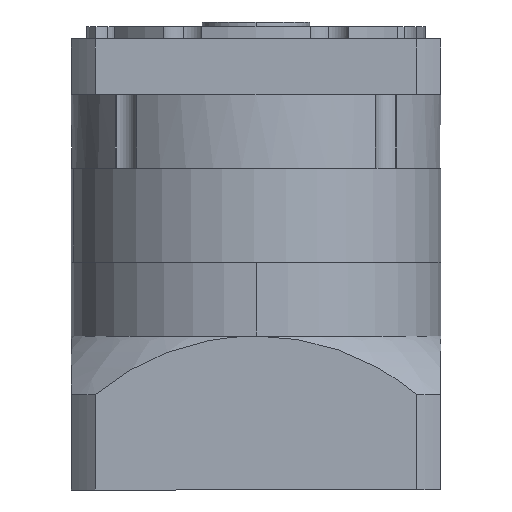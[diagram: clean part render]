
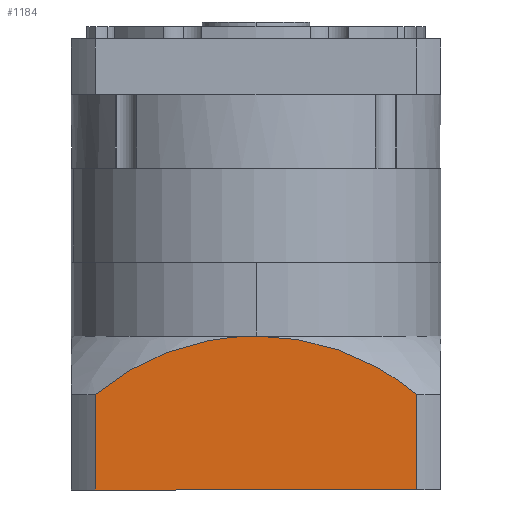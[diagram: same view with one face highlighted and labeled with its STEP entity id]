
A CAD part, left-side view. The second image highlights one B-rep face of the part: STEP entity #1184.
In plain terms, the highlighted planar face has unit normal (-1, 0, 0) as drawn and (0, 1, 0) by its records, which use the part's own axes.
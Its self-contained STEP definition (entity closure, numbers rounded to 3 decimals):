
#1184 = ADVANCED_FACE ( 'NONE', ( #15052 ), #28808, .T. ) ;
#2090 = EDGE_CURVE ( 'NONE', #21302, #34622, #9427, .T. ) ;
#2966 = CARTESIAN_POINT ( 'NONE',  ( 28.852, 60., -8.288 ) ) ;
#3414 = CARTESIAN_POINT ( 'NONE',  ( -16.416, 60., -4.641 ) ) ;
#3484 = DIRECTION ( 'NONE',  ( -1., 0., 0. ) ) ;
#3535 = CARTESIAN_POINT ( 'NONE',  ( -60., 60., -53. ) ) ;
#5789 = AXIS2_PLACEMENT_3D ( 'NONE', #29062, #29104, #29200 ) ;
#6475 = CARTESIAN_POINT ( 'NONE',  ( 18.757, 60., -5.055 ) ) ;
#6759 = VECTOR ( 'NONE', #29615, 1000. ) ;
#6905 = CARTESIAN_POINT ( 'NONE',  ( -22.137, 60., -6.065 ) ) ;
#8317 = VECTOR ( 'NONE', #3484, 1000. ) ;
#9427 = LINE ( 'NONE', #3535, #8317 ) ;
#9887 = CARTESIAN_POINT ( 'NONE',  ( 52.156, 60., -22. ) ) ;
#10033 = CARTESIAN_POINT ( 'NONE',  ( 9.481, 60., -3.52 ) ) ;
#10475 = CARTESIAN_POINT ( 'NONE',  ( -25.537, 60., -7.109 ) ) ;
#11881 = ORIENTED_EDGE ( 'NONE', *, *, #19020, .F. ) ;
#11966 = ORIENTED_EDGE ( 'NONE', *, *, #2090, .T. ) ;
#12007 = ORIENTED_EDGE ( 'NONE', *, *, #30482, .T. ) ;
#12566 = CARTESIAN_POINT ( 'NONE',  ( -52.156, 60., -22. ) ) ;
#12823 = ORIENTED_EDGE ( 'NONE', *, *, #42599, .F. ) ;
#12864 = ORIENTED_EDGE ( 'NONE', *, *, #18723, .F. ) ;
#13610 = CARTESIAN_POINT ( 'NONE',  ( 4.756, 60., -3.131 ) ) ;
#13912 = CARTESIAN_POINT ( 'NONE',  ( -4.77, 60., -3. ) ) ;
#14070 = CARTESIAN_POINT ( 'NONE',  ( -32.258, 60., -9.53 ) ) ;
#15052 = FACE_OUTER_BOUND ( 'NONE', #36100, .T. ) ;
#17049 = CARTESIAN_POINT ( 'NONE',  ( 38.546, 60., -12.698 ) ) ;
#17205 = CARTESIAN_POINT ( 'NONE',  ( 1.19, 60., -3. ) ) ;
#17437 = CARTESIAN_POINT ( 'NONE',  ( 0., 60., -3. ) ) ;
#17639 = CARTESIAN_POINT ( 'NONE',  ( -44.646, 60., -16.225 ) ) ;
#18723 = EDGE_CURVE ( 'NONE', #31137, #37617, #29332, .T. ) ;
#19002 = DIRECTION ( 'NONE',  ( 0., 0., -1. ) ) ;
#19020 = EDGE_CURVE ( 'NONE', #37617, #34622, #23785, .T. ) ;
#20574 = CARTESIAN_POINT ( 'NONE',  ( 33.242, 60., -10.107 ) ) ;
#21171 = CARTESIAN_POINT ( 'NONE',  ( -52.156, 60., -22. ) ) ;
#21302 = VERTEX_POINT ( 'NONE', #27031 ) ;
#22633 = B_SPLINE_CURVE_WITH_KNOTS ( 'NONE', 3,
 ( #9887, #23973, #38186, #17049, #41702, #20574, #45136, #24113, #2966, #27638, #6475, #31163, #10033, #34748, #13610, #38340, #17205, #41846 ),
 .UNSPECIFIED., .F., .F.,
 ( 4, 2, 2, 2, 2, 2, 2, 2, 4 ),
 ( 0., 0.014, 0.021, 0.025, 0.028, 0.042, 0.049, 0.053, 0.056 ),
 .UNSPECIFIED. ) ;
#23785 = LINE ( 'NONE', #26210, #41444 ) ;
#23973 = CARTESIAN_POINT ( 'NONE',  ( 48.515, 60., -18.934 ) ) ;
#24113 = CARTESIAN_POINT ( 'NONE',  ( 29.959, 60., -8.718 ) ) ;
#24532 = CARTESIAN_POINT ( 'NONE',  ( 0., 60., -3. ) ) ;
#26210 = CARTESIAN_POINT ( 'NONE',  ( -52.156, 60., 0. ) ) ;
#27031 = CARTESIAN_POINT ( 'NONE',  ( 52.156, 60., -53. ) ) ;
#27638 = CARTESIAN_POINT ( 'NONE',  ( 23.294, 60., -6.267 ) ) ;
#28090 = CARTESIAN_POINT ( 'NONE',  ( -18.715, 60., -5.149 ) ) ;
#28808 = PLANE ( 'NONE',  #5789 ) ;
#29062 = CARTESIAN_POINT ( 'NONE',  ( -60., 60., -53. ) ) ;
#29104 = DIRECTION ( 'NONE',  ( 0., 1., 0. ) ) ;
#29200 = DIRECTION ( 'NONE',  ( -1., 0., 0. ) ) ;
#29332 = B_SPLINE_CURVE_WITH_KNOTS ( 'NONE', 3,
 ( #24532, #13912, #42139, #3414, #28090, #6905, #31604, #10475, #35183, #14070, #38786, #17639, #42283, #21171 ),
 .UNSPECIFIED., .F., .F.,
 ( 4, 2, 2, 2, 2, 2, 4 ),
 ( 0., 0.014, 0.021, 0.025, 0.028, 0.042, 0.056 ),
 .UNSPECIFIED. ) ;
#29615 = DIRECTION ( 'NONE',  ( 0., 0., -1. ) ) ;
#30482 = EDGE_CURVE ( 'NONE', #35383, #21302, #34966, .T. ) ;
#31137 = VERTEX_POINT ( 'NONE', #17437 ) ;
#31163 = CARTESIAN_POINT ( 'NONE',  ( 11.817, 60., -3.829 ) ) ;
#31604 = CARTESIAN_POINT ( 'NONE',  ( -23.273, 60., -6.396 ) ) ;
#34622 = VERTEX_POINT ( 'NONE', #38452 ) ;
#34748 = CARTESIAN_POINT ( 'NONE',  ( 5.943, 60., -3.209 ) ) ;
#34966 = LINE ( 'NONE', #43596, #6759 ) ;
#35183 = CARTESIAN_POINT ( 'NONE',  ( -26.667, 60., -7.493 ) ) ;
#35383 = VERTEX_POINT ( 'NONE', #43139 ) ;
#36100 = EDGE_LOOP ( 'NONE', ( #12864, #12823, #12007, #11966, #11881 ) ) ;
#37617 = VERTEX_POINT ( 'NONE', #12566 ) ;
#38186 = CARTESIAN_POINT ( 'NONE',  ( 44.654, 60., -16.23 ) ) ;
#38340 = CARTESIAN_POINT ( 'NONE',  ( 2.379, 60., -3.026 ) ) ;
#38452 = CARTESIAN_POINT ( 'NONE',  ( -52.156, 60., -53. ) ) ;
#38786 = CARTESIAN_POINT ( 'NONE',  ( -36.521, 60., -11.527 ) ) ;
#41444 = VECTOR ( 'NONE', #19002, 1000. ) ;
#41702 = CARTESIAN_POINT ( 'NONE',  ( 36.457, 60., -11.608 ) ) ;
#41846 = CARTESIAN_POINT ( 'NONE',  ( 0., 60., -3. ) ) ;
#42139 = CARTESIAN_POINT ( 'NONE',  ( -9.47, 60., -3.417 ) ) ;
#42283 = CARTESIAN_POINT ( 'NONE',  ( -48.507, 60., -18.927 ) ) ;
#42599 = EDGE_CURVE ( 'NONE', #35383, #31137, #22633, .T. ) ;
#43139 = CARTESIAN_POINT ( 'NONE',  ( 52.156, 60., -22. ) ) ;
#43596 = CARTESIAN_POINT ( 'NONE',  ( 52.156, 60., -53. ) ) ;
#45136 = CARTESIAN_POINT ( 'NONE',  ( 32.157, 60., -9.629 ) ) ;
